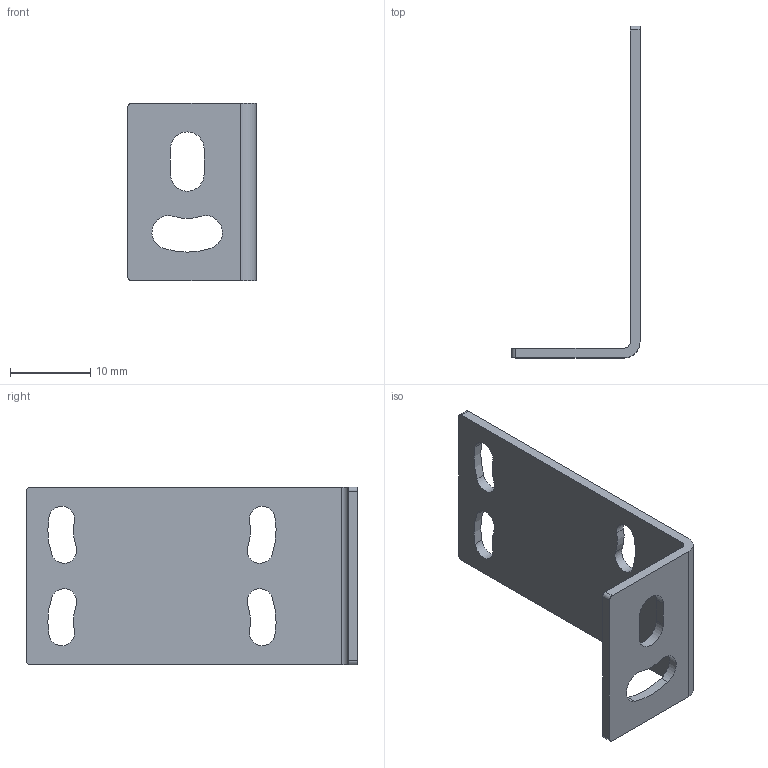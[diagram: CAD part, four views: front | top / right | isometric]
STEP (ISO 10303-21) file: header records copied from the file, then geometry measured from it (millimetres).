
FILE_DESCRIPTION(/* description */ (''),/* implementation_level */ '2;1');
FILE_NAME(/* name */ 'F:\HUAYIFENG\01)HUAYIFENG_宣传文件\01)HUAYIFENG_\X2\5BA34F2065874EF6\X0\_产品资料整合\03)产品3D文档\02)产品3D_光电系列_K12_2019\02)LS200系列_3D\EB_4020_安装支架.stp',/* time_stamp */ '2019-06-26T20:04:45+08:00',/* author */ ('fengjiarun'),/* organization */ (''),/* preprocessor_version */ 'ST-DEVELOPER v16.5',/* originating_system */ 'Autodesk Inventor 2017',/* authorisation */ '');
FILE_SCHEMA (('AUTOMOTIVE_DESIGN { 1 0 10303 214 3 1 1 }'));
Length unit declared in the file: millimetre
Products named in the file (1): 7
Bounding box: 16 x 41.4 x 22.2 mm (x, y, z)
Volume: 1308.6 mm3; surface area: 2503.5 mm2
Topology: 1 solids, 1 shells, 38 faces, 108 edges, 72 vertices
Faces by surface type: cylinder 28, plane 10
Entity records: 1322 total; most frequent: DIRECTION 242, CARTESIAN_POINT 219, ORIENTED_EDGE 216, EDGE_CURVE 108, AXIS2_PLACEMENT_3D 95, VERTEX_POINT 72, CIRCLE 56, LINE 52
